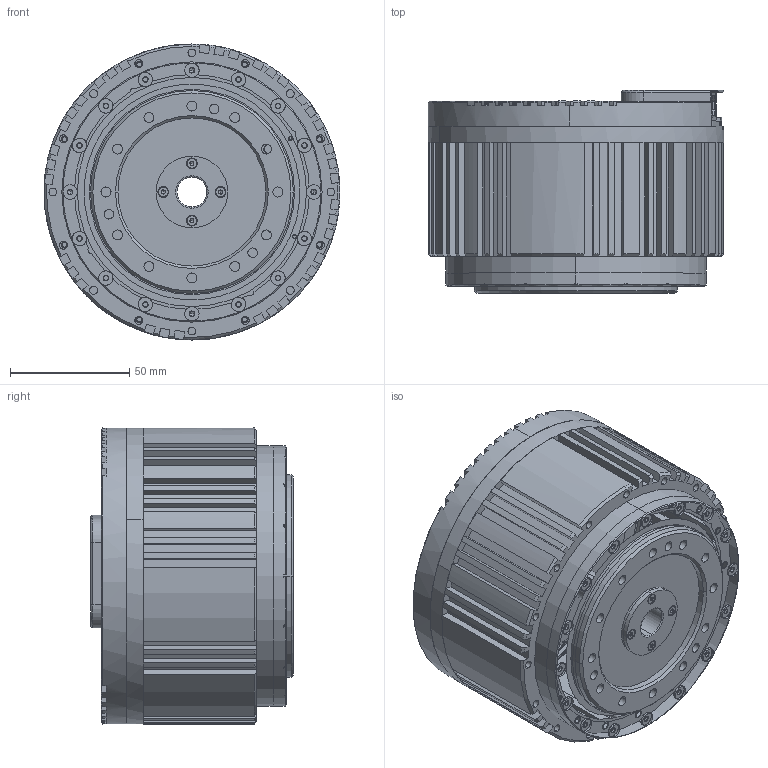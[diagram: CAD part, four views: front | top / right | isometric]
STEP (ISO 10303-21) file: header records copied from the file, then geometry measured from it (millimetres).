
FILE_DESCRIPTION (( 'STEP AP203' ), '1' );
FILE_NAME ('X12-P20-320.STEP', '2025-09-13T05:32:32', ( '微软用户' ), ( '微软中国' ), 'SwSTEP 2.0', 'SolidWorks 2020', '' );
FILE_SCHEMA (( 'CONFIG_CONTROL_DESIGN' ));
Length unit declared in the file: millimetre
Products named in the file (1): X12-P20-320
Bounding box: 123.94 x 85 x 124 mm (x, y, z)
Surface area: 116973.8 mm2 (no closed solid volume)
Topology: 0 solids, 65 shells, 1212 faces, 4110 edges, 2908 vertices
Faces by surface type: plane 756, cylinder 226, cone 224, torus 6
Entity records: 45984 total; most frequent: CARTESIAN_POINT 10683, DIRECTION 7270, ORIENTED_EDGE 6697, EDGE_CURVE 4086, VERTEX_POINT 2908, AXIS2_PLACEMENT_3D 2523, LINE 2224, VECTOR 2224
